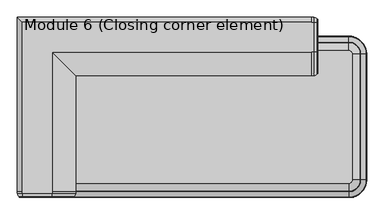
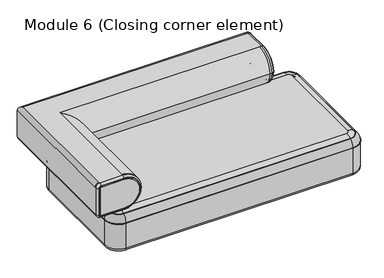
"""IFC4 building model written with IfcOpenShell, lengths in millimetres: furniture geometry, Module 6 (Closing corner element) : 1800х930х710мм."""

from ifc_helpers import new_model, si_unit, point, frame, origin, place, context, project, spatial, polyline, circle_curve, ellipse_curve, trimmed, source, transform, mapped, element, save
from ifc_brep_helpers import plane_surface, cylinder_surface, revolved_surface, advanced_brep


def module_6_closing_corner_element_1f972c7f(model_context):
    return source(origin(), model_context, "Body", "AdvancedBrep", [
        advanced_brep(
        [(1450.0, -180.0, 680.0), (1450.0, -280.0, 580.0), (1450.0, -180.0, 480.0), (1450.0, -25.0, 480.0), (1450.0, -20.0, 485.0), (1450.0, -20.0, 675.0), (1450.0, -25.0000008, 680.0), (1448.319335, -180.0, 688.0250834), (1448.319335, -288.0250834, 580.0), (1430.0, -300.0, 580.0), (1430.0, -180.0, 700.0), (1420.0, -180.0, 700.0), (1420.0, -300.0, 580.0), (1448.319335, -180.0, 471.9749166), (1420.0, -180.0, 460.0), (1430.0, -180.0, 460.0), (1448.319335, -25.0, 471.9749166), (80.0, -180.0, 460.0), (80.0, -900.0, 460.0), (80.0, -910.0, 460.0), (-75.0, -910.0, 460.0), (-75.0, -900.0, 460.0), (-75.0, -25.0, 460.0), (1420.0, -25.0, 460.0), (1430.0, -25.0, 460.0), (1448.319335, -11.9749166, 485.0), (1420.0, 0.0, 485.0), (1430.0, 0.0, 485.0), (1448.319335, -11.9749166, 675.0), (-100.0, 0.0, 485.0), (-100.0, 0.0, 675.0), (1420.0, 0.0, 675.0), (1430.0, 0.0, 675.0), (1448.319335, -25.0, 688.0250834), (1420.0, -25.0, 700.0), (1430.0, -25.0, 700.0), (-75.0, -25.0, 700.0), (-75.0, -900.0, 700.0), (-75.0, -910.0, 700.0), (80.0, -910.0, 700.0), (80.0, -900.0, 700.0), (80.0, -180.0, 700.0), (1447.9066419, -288.9079837, 580.0), (1447.9066419, -180.0, 688.9079837), (1447.9066419, -180.0, 471.0920163), (1447.9066419, -25.0, 471.0920163), (1447.9066419, -11.0920163, 485.0), (1447.9066419, -11.0920163, 675.0), (1447.9066419, -25.0, 688.9079837), (200.0, -300.0, 580.0), (-100.0, -900.0, 485.0), (-100.0, -910.0, 485.0), (-100.0, -910.0, 675.0), (-100.0, -900.0, 675.0), (200.0, -900.0, 580.0), (-75.0, -930.0, 680.0), (-80.0, -930.0, 675.0), (-80.0, -930.0, 485.0), (-75.0, -930.0, 480.0), (80.0, -930.0, 480.0), (180.0, -930.0, 580.0), (79.9999934, -930.0, 680.0), (-75.0, -928.2181361, 688.2522432), (-88.2522432, -928.2181361, 675.0), (-88.2522432, -928.2181361, 485.0), (-75.0, -928.2181361, 471.7477568), (80.0, -928.2181361, 471.7477568), (188.2522432, -928.2181361, 580.0), (200.0, -910.0, 580.0), (80.0, -928.2181361, 688.2522432), (-88.9180637, -927.9016239, 675.0), (-75.0, -927.9016239, 688.9180637), (-88.9180637, -927.9016239, 485.0), (-75.0, -927.9016239, 471.0819363), (80.0, -927.9016239, 471.0819363), (188.9180637, -927.9016239, 580.0), (80.0, -927.9016239, 688.9180637)],
        [
            (0, 1, circle_curve(frame((1450.0, -180.0, 580.0), z_axis=(1.0, 0.0, 0.0), x_axis=(0.0, 0.0, 1.0)), 100.0)),
            (1, 2, circle_curve(frame((1450.0, -180.0, 580.0), z_axis=(1.0, 0.0, 0.0), x_axis=(0.0, -1.0, 0.0)), 100.0)),
            (2, 3),
            (3, 4, circle_curve(frame((1450.0, -25.0, 485.0), z_axis=(1.0, 0.0, 0.0), x_axis=(0.0, 0.0, -1.0)), 5.0)),
            (4, 5),
            (5, 6, circle_curve(frame((1450.0, -25.0, 675.0), z_axis=(1.0, 0.0, 0.0), x_axis=(0.0, 1.0, 0.0)), 5.0)),
            (6, 0),
            (0, 7, circle_curve(frame((1430.0, -180.0, 680.0), z_axis=(0.0, -1.0, 0.0), x_axis=(0.0, 0.0, -1.0)), 20.0)),
            (7, 8, circle_curve(frame((1448.319335, -180.0, 580.0), z_axis=(1.0, 0.0, 0.0), x_axis=(0.0, 0.0, 1.0)), 108.0250834)),
            (8, 1, circle_curve(frame((1430.0, -280.0, 580.0), z_axis=(0.0, 0.0, 1.0), x_axis=(0.0, 1.0, 0.0)), 20.0)),
            (9, 10, circle_curve(frame((1430.0, -180.0, 580.0), z_axis=(-1.0, 0.0, 0.0), x_axis=(0.0, 0.0, 1.0)), 120.0)),
            (10, 11),
            (11, 12, circle_curve(frame((1420.0, -180.0, 580.0), z_axis=(1.0, 0.0, 0.0), x_axis=(0.0, 0.0, 1.0)), 120.0)),
            (12, 9),
            (8, 13, circle_curve(frame((1448.319335, -180.0, 580.0), z_axis=(1.0, 0.0, 0.0), x_axis=(0.0, -1.0, 0.0)), 108.0250834)),
            (13, 2, circle_curve(frame((1430.0, -180.0, 480.0), z_axis=(0.0, -1.0, 0.0), x_axis=(0.0, 0.0, 1.0)), 20.0)),
            (12, 14, circle_curve(frame((1420.0, -180.0, 580.0), z_axis=(1.0, 0.0, 0.0), x_axis=(0.0, -1.0, 0.0)), 120.0)),
            (14, 15),
            (15, 9, circle_curve(frame((1430.0, -180.0, 580.0), z_axis=(-1.0, 0.0, 0.0), x_axis=(0.0, -1.0, 0.0)), 120.0)),
            (13, 16),
            (16, 3, circle_curve(frame((1430.0, -25.0, 480.0), z_axis=(0.0, -1.0, 0.0), x_axis=(0.0, 0.0, 1.0)), 20.0)),
            (14, 17),
            (17, 18),
            (18, 19),
            (19, 20),
            (20, 21),
            (21, 22),
            (22, 23),
            (23, 24),
            (24, 15),
            (16, 25, circle_curve(frame((1448.319335, -25.0, 485.0), z_axis=(1.0, 0.0, 0.0), x_axis=(0.0, 0.0, -1.0)), 13.0250834)),
            (25, 4, circle_curve(frame((1430.0, -20.0, 485.0), z_axis=(0.0, 0.0, -1.0), x_axis=(0.0, -1.0, 0.0)), 20.0)),
            (23, 26, circle_curve(frame((1420.0, -25.0, 485.0), z_axis=(1.0, 0.0, 0.0), x_axis=(0.0, 0.0, -1.0)), 25.0)),
            (26, 27),
            (27, 24, circle_curve(frame((1430.0, -25.0, 485.0), z_axis=(-1.0, 0.0, 0.0), x_axis=(0.0, 0.0, -1.0)), 25.0)),
            (25, 28),
            (28, 5, circle_curve(frame((1430.0, -20.0, 675.0), z_axis=(0.0, 0.0, -1.0), x_axis=(0.0, -1.0, 0.0)), 20.0)),
            (26, 29),
            (29, 30),
            (30, 31),
            (31, 32),
            (32, 27),
            (28, 33, circle_curve(frame((1448.319335, -25.0, 675.0), z_axis=(1.0, 0.0, 0.0), x_axis=(0.0, 1.0, 0.0)), 13.0250834)),
            (33, 6, circle_curve(frame((1430.0, -25.0, 680.0), z_axis=(0.0, 1.0, 0.0), x_axis=(0.0, 0.0, -1.0)), 20.0)),
            (31, 34, circle_curve(frame((1420.0, -25.0, 675.0), z_axis=(1.0, 0.0, 0.0), x_axis=(0.0, 1.0, 0.0)), 25.0)),
            (34, 35),
            (35, 32, circle_curve(frame((1430.0, -25.0, 675.0), z_axis=(-1.0, 0.0, 0.0), x_axis=(0.0, 1.0, 0.0)), 25.0)),
            (33, 7),
            (10, 35),
            (34, 36),
            (36, 37),
            (37, 38),
            (38, 39),
            (39, 40),
            (40, 41),
            (41, 11),
            (9, 42, circle_curve(frame((1430.0, -280.0, 580.0), z_axis=(0.0, 0.0, 1.0), x_axis=(0.0, 1.0, 0.0)), 20.0)),
            (42, 43, circle_curve(frame((1447.9066419, -180.0, 580.0), z_axis=(-1.0, 0.0, 0.0), x_axis=(0.0, 0.0, 1.0)), 108.9079837)),
            (43, 10, circle_curve(frame((1430.0, -180.0, 680.0), z_axis=(0.0, -1.0, 0.0), x_axis=(0.0, 0.0, -1.0)), 20.0)),
            (7, 43, circle_curve(frame((1448.6877598, -180.0, 688.7351983), z_axis=(0.0, -1.0, 0.0), x_axis=(0.0, 0.0, -1.0)), 0.8)),
            (42, 8, circle_curve(frame((1448.6877598, -288.7351983, 580.0), z_axis=(0.0, 0.0, 1.0), x_axis=(0.0, 1.0, 0.0)), 0.8)),
            (15, 44, circle_curve(frame((1430.0, -180.0, 480.0), z_axis=(0.0, -1.0, 0.0), x_axis=(0.0, 0.0, 1.0)), 20.0)),
            (44, 42, circle_curve(frame((1447.9066419, -180.0, 580.0), z_axis=(-1.0, 0.0, 0.0), x_axis=(0.0, -1.0, 0.0)), 108.9079837)),
            (44, 13, circle_curve(frame((1448.6877598, -180.0, 471.2648017), z_axis=(0.0, -1.0, 0.0), x_axis=(0.0, 0.0, 1.0)), 0.8)),
            (24, 45, circle_curve(frame((1430.0, -25.0, 480.0), z_axis=(0.0, -1.0, 0.0), x_axis=(0.0, 0.0, 1.0)), 20.0)),
            (45, 44),
            (45, 16, circle_curve(frame((1448.6877598, -25.0, 471.2648017), z_axis=(0.0, -1.0, 0.0), x_axis=(0.0, 0.0, 1.0)), 0.8)),
            (27, 46, circle_curve(frame((1430.0, -20.0, 485.0), z_axis=(0.0, 0.0, -1.0), x_axis=(0.0, -1.0, 0.0)), 20.0)),
            (46, 45, circle_curve(frame((1447.9066419, -25.0, 485.0), z_axis=(-1.0, 0.0, 0.0), x_axis=(0.0, 0.0, -1.0)), 13.9079837)),
            (46, 25, circle_curve(frame((1448.6877598, -11.2648017, 485.0), z_axis=(0.0, 0.0, -1.0), x_axis=(0.0, -1.0, 0.0)), 0.8)),
            (32, 47, circle_curve(frame((1430.0, -20.0, 675.0), z_axis=(0.0, 0.0, -1.0), x_axis=(0.0, -1.0, 0.0)), 20.0)),
            (47, 46),
            (47, 28, circle_curve(frame((1448.6877598, -11.2648017, 675.0), z_axis=(0.0, 0.0, -1.0), x_axis=(0.0, -1.0, 0.0)), 0.8)),
            (35, 48, circle_curve(frame((1430.0, -25.0, 680.0), z_axis=(0.0, 1.0, 0.0), x_axis=(0.0, 0.0, -1.0)), 20.0)),
            (48, 47, circle_curve(frame((1447.9066419, -25.0, 675.0), z_axis=(-1.0, 0.0, 0.0), x_axis=(0.0, 1.0, 0.0)), 13.9079837)),
            (48, 33, circle_curve(frame((1448.6877598, -25.0, 688.7351983), z_axis=(0.0, 1.0, 0.0), x_axis=(0.0, 0.0, -1.0)), 0.8)),
            (43, 48),
            (30, 36, ellipse_curve(frame((-75.0, -25.0, 675.0), z_axis=(0.7071067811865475, 0.7071067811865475, 0.0), x_axis=(0.7071067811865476, -0.7071067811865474, 0.0)), 35.3553391, 25.0)),
            (41, 49, ellipse_curve(frame((80.0, -180.0, 580.0), z_axis=(0.7071067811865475, 0.7071067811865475, 0.0), x_axis=(0.7071067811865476, -0.7071067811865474, 0.0)), 169.7056275, 120.0)),
            (49, 12),
            (49, 17, ellipse_curve(frame((80.0, -180.0, 580.0), z_axis=(0.7071067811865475, 0.7071067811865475, 0.0), x_axis=(0.7071067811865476, -0.7071067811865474, 0.0)), 169.7056275, 120.0)),
            (22, 29, ellipse_curve(frame((-75.0, -25.0, 485.0), z_axis=(0.7071067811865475, 0.7071067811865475, 0.0), x_axis=(0.7071067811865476, -0.7071067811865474, 0.0)), 35.3553391, 25.0)),
            (29, 50),
            (50, 51),
            (51, 52),
            (52, 53),
            (53, 30),
            (53, 37, circle_curve(frame((-75.0, -900.0, 675.0), z_axis=(0.0, 1.0, 0.0), x_axis=(1.0, 0.0, 0.0)), 25.0)),
            (40, 54, circle_curve(frame((80.0, -900.0, 580.0), z_axis=(0.0, 1.0, 0.0), x_axis=(1.0, 0.0, 0.0)), 120.0)),
            (54, 49),
            (54, 18, circle_curve(frame((80.0, -900.0, 580.0), z_axis=(0.0, 1.0, 0.0), x_axis=(1.0, 0.0, 0.0)), 120.0)),
            (21, 50, circle_curve(frame((-75.0, -900.0, 485.0), z_axis=(0.0, 1.0, 0.0), x_axis=(1.0, 0.0, 0.0)), 25.0)),
            (55, 56, circle_curve(frame((-75.0, -930.0, 675.0), z_axis=(0.0, -1.0, 0.0), x_axis=(0.0, 0.0, 1.0)), 5.0)),
            (56, 57),
            (57, 58, circle_curve(frame((-75.0, -930.0, 485.0), z_axis=(0.0, -1.0, 0.0), x_axis=(-1.0, 0.0, 0.0)), 5.0)),
            (58, 59),
            (59, 60, circle_curve(frame((80.0, -930.0, 580.0), z_axis=(0.0, -1.0, 0.0), x_axis=(0.0, 0.0, -1.0)), 100.0)),
            (60, 61, circle_curve(frame((80.0, -930.0, 580.0), z_axis=(0.0, -1.0, 0.0), x_axis=(1.0, 0.0, 0.0)), 100.0)),
            (61, 55),
            (55, 62, circle_curve(frame((-75.0, -910.0, 680.0), z_axis=(-1.0, 0.0, 0.0), x_axis=(0.0, 0.0, -1.0)), 20.0)),
            (62, 63, circle_curve(frame((-75.0, -928.2181361, 675.0), z_axis=(0.0, -1.0, 0.0), x_axis=(0.0, 0.0, 1.0)), 13.2522432)),
            (63, 56, circle_curve(frame((-80.0, -910.0, 675.0), z_axis=(0.0, 0.0, 1.0), x_axis=(1.0, 0.0, 0.0)), 20.0)),
            (52, 38, circle_curve(frame((-75.0, -910.0, 675.0), z_axis=(0.0, 1.0, 0.0), x_axis=(0.0, 0.0, 1.0)), 25.0)),
            (63, 64),
            (64, 57, circle_curve(frame((-80.0, -910.0, 485.0), z_axis=(0.0, 0.0, 1.0), x_axis=(1.0, 0.0, 0.0)), 20.0)),
            (64, 65, circle_curve(frame((-75.0, -928.2181361, 485.0), z_axis=(0.0, -1.0, 0.0), x_axis=(-1.0, 0.0, 0.0)), 13.2522432)),
            (65, 58, circle_curve(frame((-75.0, -910.0, 480.0), z_axis=(-1.0, 0.0, 0.0), x_axis=(0.0, 0.0, 1.0)), 20.0)),
            (20, 51, circle_curve(frame((-75.0, -910.0, 485.0), z_axis=(0.0, 1.0, 0.0), x_axis=(-1.0, 0.0, 0.0)), 25.0)),
            (65, 66),
            (66, 59, circle_curve(frame((80.0, -910.0, 480.0), z_axis=(-1.0, 0.0, 0.0), x_axis=(0.0, 0.0, 1.0)), 20.0)),
            (66, 67, circle_curve(frame((80.0, -928.2181361, 580.0), z_axis=(0.0, -1.0, 0.0), x_axis=(0.0, 0.0, -1.0)), 108.2522432)),
            (67, 60, circle_curve(frame((180.0, -910.0, 580.0), z_axis=(0.0, 0.0, -1.0), x_axis=(-1.0, 0.0, 0.0)), 20.0)),
            (54, 68),
            (68, 19, circle_curve(frame((80.0, -910.0, 580.0), z_axis=(0.0, 1.0, 0.0), x_axis=(0.0, 0.0, -1.0)), 120.0)),
            (67, 69, circle_curve(frame((80.0, -928.2181361, 580.0), z_axis=(0.0, -1.0, 0.0), x_axis=(1.0, 0.0, 0.0)), 108.2522432)),
            (69, 61, circle_curve(frame((80.0, -910.0, 680.0), z_axis=(1.0, 0.0, 0.0), x_axis=(0.0, 0.0, -1.0)), 20.0)),
            (39, 68, circle_curve(frame((80.0, -910.0, 580.0), z_axis=(0.0, 1.0, 0.0), x_axis=(1.0, 0.0, 0.0)), 120.0)),
            (69, 62),
            (52, 70, circle_curve(frame((-80.0, -910.0, 675.0), z_axis=(0.0, 0.0, 1.0), x_axis=(1.0, 0.0, 0.0)), 20.0)),
            (70, 71, circle_curve(frame((-75.0, -927.9016239, 675.0), z_axis=(0.0, 1.0, 0.0), x_axis=(0.0, 0.0, 1.0)), 13.9180637)),
            (71, 38, circle_curve(frame((-75.0, -910.0, 680.0), z_axis=(-1.0, 0.0, 0.0), x_axis=(0.0, 0.0, -1.0)), 20.0)),
            (62, 71, circle_curve(frame((-75.0, -928.7389915, 688.9079837), z_axis=(-1.0, 0.0, 0.0), x_axis=(0.0, 0.0, -1.0)), 0.8374282)),
            (70, 63, circle_curve(frame((-88.9079837, -928.7389915, 675.0), z_axis=(0.0, 0.0, 1.0), x_axis=(1.0, 0.0, 0.0)), 0.8374282)),
            (51, 72, circle_curve(frame((-80.0, -910.0, 485.0), z_axis=(0.0, 0.0, 1.0), x_axis=(1.0, 0.0, 0.0)), 20.0)),
            (72, 70),
            (72, 64, circle_curve(frame((-88.9079837, -928.7389915, 485.0), z_axis=(0.0, 0.0, 1.0), x_axis=(1.0, 0.0, 0.0)), 0.8374282)),
            (20, 73, circle_curve(frame((-75.0, -910.0, 480.0), z_axis=(-1.0, 0.0, 0.0), x_axis=(0.0, 0.0, 1.0)), 20.0)),
            (73, 72, circle_curve(frame((-75.0, -927.9016239, 485.0), z_axis=(0.0, 1.0, 0.0), x_axis=(-1.0, 0.0, 0.0)), 13.9180637)),
            (73, 65, circle_curve(frame((-75.0, -928.7389915, 471.0920163), z_axis=(-1.0, 0.0, 0.0), x_axis=(0.0, 0.0, 1.0)), 0.8374282)),
            (19, 74, circle_curve(frame((80.0, -910.0, 480.0), z_axis=(-1.0, 0.0, 0.0), x_axis=(0.0, 0.0, 1.0)), 20.0)),
            (74, 73),
            (74, 66, circle_curve(frame((80.0, -928.7389915, 471.0920163), z_axis=(-1.0, 0.0, 0.0), x_axis=(0.0, 0.0, 1.0)), 0.8374282)),
            (68, 75, circle_curve(frame((180.0, -910.0, 580.0), z_axis=(0.0, 0.0, -1.0), x_axis=(-1.0, 0.0, 0.0)), 20.0)),
            (75, 74, circle_curve(frame((80.0, -927.9016239, 580.0), z_axis=(0.0, 1.0, 0.0), x_axis=(0.0, 0.0, -1.0)), 108.9180637)),
            (75, 67, circle_curve(frame((188.9079837, -928.7389915, 580.0), z_axis=(0.0, 0.0, -1.0), x_axis=(-1.0, 0.0, 0.0)), 0.8374282)),
            (39, 76, circle_curve(frame((80.0, -910.0, 680.0), z_axis=(1.0, 0.0, 0.0), x_axis=(0.0, 0.0, -1.0)), 20.0)),
            (76, 75, circle_curve(frame((80.0, -927.9016239, 580.0), z_axis=(0.0, 1.0, 0.0), x_axis=(1.0, 0.0, 0.0)), 108.9180637)),
            (76, 69, circle_curve(frame((80.0, -928.7389915, 688.9079837), z_axis=(1.0, 0.0, 0.0), x_axis=(0.0, 0.0, -1.0)), 0.8374282)),
            (71, 76),
        ],
        [
            plane_surface(frame((1450.0, -150.0, 680.0), z_axis=(1.0, 0.0, 0.0), x_axis=(0.0, -1.0, 0.0))),
            revolved_surface(trimmed(ellipse_curve(frame((1430.0, -180.0, 680.0), z_axis=(0.0, 1.0, 0.0), x_axis=(0.0, 0.0, -1.0)), 20.0, 20.0), [point((1448.319335, -180.0, 688.0250834))], [point((1450.0, -180.0, 680.0))], True, "CARTESIAN"), (1420.0, -180.0, 580.0), (1.0, 0.0, 0.0)),
            cylinder_surface(frame((1420.0, -180.0, 580.0), z_axis=(1.0, 0.0, 0.0), x_axis=(0.0, 0.0, 1.0)), 120.0),
            revolved_surface(trimmed(ellipse_curve(frame((1430.0, -280.0, 580.0), z_axis=(0.0, 0.0, 1.0), x_axis=(0.0, 1.0, 0.0)), 20.0, 20.0), [point((1448.319335, -288.0250834, 580.0))], [point((1450.0, -280.0, 580.0))], True, "CARTESIAN"), (1420.0, -180.0, 580.0), (1.0, 0.0, 0.0)),
            cylinder_surface(frame((1420.0, -180.0, 580.0), z_axis=(1.0, 0.0, 0.0), x_axis=(0.0, -1.0, 0.0)), 120.0),
            cylinder_surface(frame((1430.0, -180.0, 480.0), z_axis=(0.0, -1.0, 0.0), x_axis=(0.0, 0.0, 1.0)), 20.0),
            plane_surface(frame((1420.0, -180.0, 460.0), z_axis=(0.0, 0.0, -1.0), x_axis=(0.0, 1.0, 0.0))),
            revolved_surface(trimmed(ellipse_curve(frame((1430.0, -25.0, 480.0), z_axis=(0.0, -1.0, 0.0), x_axis=(0.0, 0.0, 1.0)), 20.0, 20.0), [point((1448.319335, -25.0, 471.9749166))], [point((1450.0, -25.0, 480.0))], True, "CARTESIAN"), (1420.0, -25.0, 485.0), (1.0, 0.0, 0.0)),
            cylinder_surface(frame((1420.0, -25.0, 485.0), z_axis=(1.0, 0.0, 0.0), x_axis=(0.0, 0.0, -1.0)), 25.0),
            cylinder_surface(frame((1430.0, -20.0, 485.0), z_axis=(0.0, 0.0, -1.0), x_axis=(0.0, -1.0, 0.0)), 20.0),
            plane_surface(frame((1420.0, 0.0, 485.0), z_axis=(0.0, 1.0, 0.0), x_axis=(0.0, 0.0, 1.0))),
            revolved_surface(trimmed(ellipse_curve(frame((1430.0, -20.0, 675.0), z_axis=(0.0, 0.0, -1.0), x_axis=(0.0, -1.0, 0.0)), 20.0, 20.0), [point((1448.319335, -11.9749166, 675.0))], [point((1450.0, -20.0, 675.0))], True, "CARTESIAN"), (1420.0, -25.0, 675.0), (1.0, 0.0, 0.0)),
            cylinder_surface(frame((1420.0, -25.0, 675.0), z_axis=(1.0, 0.0, 0.0), x_axis=(0.0, 1.0, 0.0)), 25.0),
            cylinder_surface(frame((1430.0, -25.0, 680.0), z_axis=(0.0, 1.0, 0.0), x_axis=(0.0, 0.0, -1.0)), 20.0),
            plane_surface(frame((1420.0, -25.0, 700.0), z_axis=(0.0, 0.0, 1.0), x_axis=(0.0, -1.0, 0.0))),
            revolved_surface(trimmed(ellipse_curve(frame((1430.0, -180.0, 680.0), z_axis=(0.0, 1.0, 0.0), x_axis=(0.0, 0.0, -1.0)), 20.0, 20.0), [point((1430.0, -180.0, 700.0))], [point((1447.9066419, -180.0, 688.9079837))], True, "CARTESIAN"), (1420.0, -180.0, 580.0), (1.0, 0.0, 0.0)),
            revolved_surface(trimmed(ellipse_curve(frame((1448.6877598, -180.0, 688.7351983), z_axis=(0.0, 1.0, 0.0), x_axis=(0.0, 0.0, -1.0)), 0.8, 0.8), [point((1447.9066419, -180.0, 688.9079837))], [point((1448.319335, -180.0, 688.0250834))], True, "CARTESIAN"), (1420.0, -180.0, 580.0), (1.0, 0.0, 0.0)),
            revolved_surface(trimmed(ellipse_curve(frame((1430.0, -280.0, 580.0), z_axis=(0.0, 0.0, 1.0), x_axis=(0.0, 1.0, 0.0)), 20.0, 20.0), [point((1430.0, -300.0, 580.0))], [point((1447.9066419, -288.9079837, 580.0))], True, "CARTESIAN"), (1420.0, -180.0, 580.0), (1.0, 0.0, 0.0)),
            revolved_surface(trimmed(ellipse_curve(frame((1448.6877598, -288.7351983, 580.0), z_axis=(0.0, 0.0, 1.0), x_axis=(0.0, 1.0, 0.0)), 0.8, 0.8), [point((1447.9066419, -288.9079837, 580.0))], [point((1448.319335, -288.0250834, 580.0))], True, "CARTESIAN"), (1420.0, -180.0, 580.0), (1.0, 0.0, 0.0)),
            cylinder_surface(frame((1448.6877598, -180.0, 471.2648017), z_axis=(0.0, -1.0, 0.0), x_axis=(0.0, 0.0, 1.0)), 0.8),
            revolved_surface(trimmed(ellipse_curve(frame((1430.0, -25.0, 480.0), z_axis=(0.0, -1.0, 0.0), x_axis=(0.0, 0.0, 1.0)), 20.0, 20.0), [point((1430.0, -25.0, 460.0))], [point((1447.9066419, -25.0, 471.0920163))], True, "CARTESIAN"), (1420.0, -25.0, 485.0), (1.0, 0.0, 0.0)),
            revolved_surface(trimmed(ellipse_curve(frame((1448.6877598, -25.0, 471.2648017), z_axis=(0.0, -1.0, 0.0), x_axis=(0.0, 0.0, 1.0)), 0.8, 0.8), [point((1447.9066419, -25.0, 471.0920163))], [point((1448.319335, -25.0, 471.9749166))], True, "CARTESIAN"), (1420.0, -25.0, 485.0), (1.0, 0.0, 0.0)),
            cylinder_surface(frame((1448.6877598, -11.2648017, 485.0), z_axis=(0.0, 0.0, -1.0), x_axis=(0.0, -1.0, 0.0)), 0.8),
            revolved_surface(trimmed(ellipse_curve(frame((1430.0, -20.0, 675.0), z_axis=(0.0, 0.0, -1.0), x_axis=(0.0, -1.0, 0.0)), 20.0, 20.0), [point((1430.0, 0.0, 675.0))], [point((1447.9066419, -11.0920163, 675.0))], True, "CARTESIAN"), (1420.0, -25.0, 675.0), (1.0, 0.0, 0.0)),
            revolved_surface(trimmed(ellipse_curve(frame((1448.6877598, -11.2648017, 675.0), z_axis=(0.0, 0.0, -1.0), x_axis=(0.0, -1.0, 0.0)), 0.8, 0.8), [point((1447.9066419, -11.0920163, 675.0))], [point((1448.319335, -11.9749166, 675.0))], True, "CARTESIAN"), (1420.0, -25.0, 675.0), (1.0, 0.0, 0.0)),
            cylinder_surface(frame((1448.6877598, -25.0, 688.7351983), z_axis=(0.0, 1.0, 0.0), x_axis=(0.0, 0.0, -1.0)), 0.8),
            cylinder_surface(frame((1420.0, -25.0, 675.0), z_axis=(1.0, 0.0, 0.0), x_axis=(0.0, -1.0, 0.0)), 25.0),
            cylinder_surface(frame((1420.0, -25.0, 485.0), z_axis=(1.0, 0.0, 0.0), x_axis=(0.0, -1.0, 0.0)), 25.0),
            plane_surface(frame((-100.0, 0.0, 485.0), z_axis=(-1.0, 0.0, 0.0), x_axis=(0.0, -1.0, 0.0))),
            cylinder_surface(frame((-75.0, 0.0, 675.0), z_axis=(0.0, 1.0, 0.0), x_axis=(1.0, 0.0, 0.0)), 25.0),
            cylinder_surface(frame((80.0, 0.0, 580.0), z_axis=(0.0, 1.0, 0.0), x_axis=(1.0, 0.0, 0.0)), 120.0),
            cylinder_surface(frame((-75.0, 0.0, 485.0), z_axis=(0.0, 1.0, 0.0), x_axis=(1.0, 0.0, 0.0)), 25.0),
            plane_surface(frame((80.0, -930.0, 680.0), z_axis=(0.0, -1.0, 0.0), x_axis=(-1.0, 0.0, 0.0))),
            revolved_surface(trimmed(ellipse_curve(frame((-75.0, -910.0, 680.0), z_axis=(1.0, 0.0, 0.0), x_axis=(0.0, 0.0, -1.0)), 20.0, 20.0), [point((-75.0, -928.2181361, 688.2522432))], [point((-75.0, -930.0, 680.0))], True, "CARTESIAN"), (-75.0, -900.0, 675.0), (0.0, -1.0, 0.0)),
            cylinder_surface(frame((-75.0, -900.0, 675.0), z_axis=(0.0, -1.0, 0.0), x_axis=(0.0, 0.0, 1.0)), 25.0),
            cylinder_surface(frame((-80.0, -910.0, 675.0), z_axis=(0.0, 0.0, 1.0), x_axis=(1.0, 0.0, 0.0)), 20.0),
            revolved_surface(trimmed(ellipse_curve(frame((-80.0, -910.0, 485.0), z_axis=(0.0, 0.0, 1.0), x_axis=(1.0, 0.0, 0.0)), 20.0, 20.0), [point((-88.2522432, -928.2181361, 485.0))], [point((-80.0, -930.0, 485.0))], True, "CARTESIAN"), (-75.0, -900.0, 485.0), (0.0, -1.0, 0.0)),
            cylinder_surface(frame((-75.0, -900.0, 485.0), z_axis=(0.0, -1.0, 0.0), x_axis=(-1.0, 0.0, 0.0)), 25.0),
            cylinder_surface(frame((-75.0, -910.0, 480.0), z_axis=(-1.0, 0.0, 0.0), x_axis=(0.0, 0.0, 1.0)), 20.0),
            revolved_surface(trimmed(ellipse_curve(frame((80.0, -910.0, 480.0), z_axis=(-1.0, 0.0, 0.0), x_axis=(0.0, 0.0, 1.0)), 20.0, 20.0), [point((80.0, -928.2181361, 471.7477568))], [point((80.0, -930.0, 480.0))], True, "CARTESIAN"), (80.0, -900.0, 580.0), (0.0, -1.0, 0.0)),
            cylinder_surface(frame((80.0, -900.0, 580.0), z_axis=(0.0, -1.0, 0.0), x_axis=(0.0, 0.0, -1.0)), 120.0),
            revolved_surface(trimmed(ellipse_curve(frame((180.0, -910.0, 580.0), z_axis=(0.0, 0.0, -1.0), x_axis=(-1.0, 0.0, 0.0)), 20.0, 20.0), [point((188.2522432, -928.2181361, 580.0))], [point((180.0, -930.0, 580.0))], True, "CARTESIAN"), (80.0, -900.0, 580.0), (0.0, -1.0, 0.0)),
            cylinder_surface(frame((80.0, -900.0, 580.0), z_axis=(0.0, -1.0, 0.0), x_axis=(1.0, 0.0, 0.0)), 120.0),
            cylinder_surface(frame((80.0, -910.0, 680.0), z_axis=(1.0, 0.0, 0.0), x_axis=(0.0, 0.0, -1.0)), 20.0),
            revolved_surface(trimmed(ellipse_curve(frame((-75.0, -910.0, 680.0), z_axis=(1.0, 0.0, 0.0), x_axis=(0.0, 0.0, -1.0)), 20.0, 20.0), [point((-75.0, -910.0, 700.0))], [point((-75.0, -927.9016239, 688.9180637))], True, "CARTESIAN"), (-75.0, -900.0, 675.0), (0.0, -1.0, 0.0)),
            revolved_surface(trimmed(ellipse_curve(frame((-75.0, -928.7389915, 688.9079837), z_axis=(1.0, 0.0, 0.0), x_axis=(0.0, 0.0, -1.0)), 0.8374282, 0.8374282), [point((-75.0, -927.9016239, 688.9180637))], [point((-75.0, -928.2181361, 688.2522432))], True, "CARTESIAN"), (-75.0, -900.0, 675.0), (0.0, -1.0, 0.0)),
            cylinder_surface(frame((-88.9079837, -928.7389915, 675.0), z_axis=(0.0, 0.0, 1.0), x_axis=(1.0, 0.0, 0.0)), 0.8374282),
            revolved_surface(trimmed(ellipse_curve(frame((-80.0, -910.0, 485.0), z_axis=(0.0, 0.0, 1.0), x_axis=(1.0, 0.0, 0.0)), 20.0, 20.0), [point((-100.0, -910.0, 485.0))], [point((-88.9180637, -927.9016239, 485.0))], True, "CARTESIAN"), (-75.0, -900.0, 485.0), (0.0, -1.0, 0.0)),
            revolved_surface(trimmed(ellipse_curve(frame((-88.9079837, -928.7389915, 485.0), z_axis=(0.0, 0.0, 1.0), x_axis=(1.0, 0.0, 0.0)), 0.8374282, 0.8374282), [point((-88.9180637, -927.9016239, 485.0))], [point((-88.2522432, -928.2181361, 485.0))], True, "CARTESIAN"), (-75.0, -900.0, 485.0), (0.0, -1.0, 0.0)),
            cylinder_surface(frame((-75.0, -928.7389915, 471.0920163), z_axis=(-1.0, 0.0, 0.0), x_axis=(0.0, 0.0, 1.0)), 0.8374282),
            revolved_surface(trimmed(ellipse_curve(frame((80.0, -910.0, 480.0), z_axis=(-1.0, 0.0, 0.0), x_axis=(0.0, 0.0, 1.0)), 20.0, 20.0), [point((80.0, -910.0, 460.0))], [point((80.0, -927.9016239, 471.0819363))], True, "CARTESIAN"), (80.0, -900.0, 580.0), (0.0, -1.0, 0.0)),
            revolved_surface(trimmed(ellipse_curve(frame((80.0, -928.7389915, 471.0920163), z_axis=(-1.0, 0.0, 0.0), x_axis=(0.0, 0.0, 1.0)), 0.8374282, 0.8374282), [point((80.0, -927.9016239, 471.0819363))], [point((80.0, -928.2181361, 471.7477568))], True, "CARTESIAN"), (80.0, -900.0, 580.0), (0.0, -1.0, 0.0)),
            revolved_surface(trimmed(ellipse_curve(frame((180.0, -910.0, 580.0), z_axis=(0.0, 0.0, -1.0), x_axis=(-1.0, 0.0, 0.0)), 20.0, 20.0), [point((200.0, -910.0, 580.0))], [point((188.9180637, -927.9016239, 580.0))], True, "CARTESIAN"), (80.0, -900.0, 580.0), (0.0, -1.0, 0.0)),
            revolved_surface(trimmed(ellipse_curve(frame((188.9079837, -928.7389915, 580.0), z_axis=(0.0, 0.0, -1.0), x_axis=(-1.0, 0.0, 0.0)), 0.8374282, 0.8374282), [point((188.9180637, -927.9016239, 580.0))], [point((188.2522432, -928.2181361, 580.0))], True, "CARTESIAN"), (80.0, -900.0, 580.0), (0.0, -1.0, 0.0)),
            cylinder_surface(frame((80.0, -928.7389915, 688.9079837), z_axis=(1.0, 0.0, 0.0), x_axis=(0.0, 0.0, -1.0)), 0.8374282),
        ],
        [
            (0, [[1, 2, 3, 4, 5, 6, 7]]),
            (1, [[8, 9, 10, -1]]),
            (2, [[11, 12, 13, 14]]),
            (3, [[-10, 15, 16, -2]]),
            (4, [[-14, 17, 18, 19]]),
            (5, [[-16, 20, 21, -3]]),
            (6, [[-18, 22, 23, 24, 25, 26, 27, 28, 29, 30]]),
            (7, [[-21, 31, 32, -4]]),
            (8, [[-29, 33, 34, 35]]),
            (9, [[-32, 36, 37, -5]]),
            (10, [[-34, 38, 39, 40, 41, 42]]),
            (11, [[-37, 43, 44, -6]]),
            (12, [[-41, 45, 46, 47]]),
            (13, [[-8, -7, -44, 48]]),
            (14, [[-12, 49, -46, 50, 51, 52, 53, 54, 55, 56]]),
            (15, [[-11, 57, 58, 59]]),
            (16, [[-9, 60, -58, 61]]),
            (17, [[-19, 62, 63, -57]]),
            (18, [[-15, -61, -63, 64]]),
            (5, [[-30, 65, 66, -62]]),
            (19, [[-20, -64, -66, 67]]),
            (20, [[-35, 68, 69, -65]]),
            (21, [[-31, -67, -69, 70]]),
            (9, [[-42, 71, 72, -68]]),
            (22, [[-36, -70, -72, 73]]),
            (23, [[-47, 74, 75, -71]]),
            (24, [[-43, -73, -75, 76]]),
            (13, [[-49, -59, 77, -74]]),
            (25, [[-48, -76, -77, -60]]),
            (26, [[-40, 78, -50, -45]]),
            (4, [[-56, 79, 80, -13]]),
            (4, [[-80, 81, -22, -17]]),
            (27, [[-38, -33, -28, 82]]),
            (28, [[-39, 83, 84, 85, 86, 87]]),
            (29, [[-78, -87, 88, -51]]),
            (30, [[-55, 89, 90, -79]]),
            (30, [[-81, -90, 91, -23]]),
            (31, [[-27, 92, -83, -82]]),
            (32, [[93, 94, 95, 96, 97, 98, 99]]),
            (33, [[100, 101, 102, -93]]),
            (34, [[103, -52, -88, -86]]),
            (35, [[-102, 104, 105, -94]]),
            (36, [[-105, 106, 107, -95]]),
            (37, [[-84, -92, -26, 108]]),
            (38, [[-107, 109, 110, -96]]),
            (39, [[-110, 111, 112, -97]]),
            (40, [[-24, -91, 113, 114]]),
            (41, [[-112, 115, 116, -98]]),
            (42, [[-113, -89, -54, 117]]),
            (43, [[-100, -99, -116, 118]]),
            (44, [[-103, 119, 120, 121]]),
            (45, [[-101, 122, -120, 123]]),
            (35, [[-85, 124, 125, -119]]),
            (46, [[-104, -123, -125, 126]]),
            (47, [[-108, 127, 128, -124]]),
            (48, [[-106, -126, -128, 129]]),
            (38, [[-25, 130, 131, -127]]),
            (49, [[-109, -129, -131, 132]]),
            (50, [[-114, 133, 134, -130]]),
            (51, [[-111, -132, -134, 135]]),
            (52, [[-117, 136, 137, -133]]),
            (53, [[-115, -135, -137, 138]]),
            (43, [[-53, -121, 139, -136]]),
            (54, [[-118, -138, -139, -122]]),
        ],
    ),
        advanced_brep(
        [(90.0, -930.0, 190.0), (0.0, -840.0, 190.0), (20.0, -840.0, 170.0), (90.0, -910.0, 170.0), (90.0, -930.0, 369.0816596), (0.0, -840.0, 369.0816596), (90.0, -903.0932178, 417.1277728), (26.9067822, -840.0, 417.1277728), (0.0043962, -840.0, 370.2686252), (90.0, -929.9956038, 370.2686252), (90.0, -900.2270188, 418.8499589), (29.7729812, -840.0, 418.8499589), (90.0, -860.0212696, 430.0), (69.9787304, -840.0, 430.0), (1610.0, -910.0, 170.0), (1610.0, -930.0, 190.0), (1610.0, -930.0, 369.0816596), (1610.0, -929.9956038, 370.2686252), (1610.0, -903.0932178, 417.1277728), (1610.0, -900.2270188, 418.8499589), (1610.0, -860.0212696, 430.0), (1680.0, -840.0, 170.0), (1700.0, -840.0, 190.0), (1700.0, -840.0, 369.0816596), (1699.9956038, -840.0, 370.2686252), (1673.0932178, -840.0, 417.1277728), (1670.2270188, -840.0, 418.8499589), (1630.0212696, -840.0, 430.0), (1680.0, -190.0, 170.0), (1700.0, -190.0, 190.0), (1700.0, -190.0, 369.0816596), (1699.9956038, -190.0, 370.2686252), (1673.0932178, -190.0, 417.1277728), (1670.2270188, -190.0, 418.8499589), (1630.0212696, -190.0, 430.0), (1610.0, -120.0, 170.0), (1610.0, -100.0, 190.0), (1610.0, -100.0, 369.0816596), (1610.0, -100.0043962, 370.2686252), (1610.0, -126.9067822, 417.1277728), (1610.0, -129.7729812, 418.8499589), (1610.0, -169.9787304, 430.0), (90.0, -120.0, 170.0), (90.0, -100.0, 190.0), (90.0, -100.0, 369.0816596), (90.0, -100.0043962, 370.2686252), (90.0, -126.9067822, 417.1277728), (90.0, -129.7729812, 418.8499589), (90.0, -169.9787304, 430.0), (20.0, -190.0, 170.0), (0.0, -190.0, 190.0), (0.0, -190.0, 369.0816596), (0.0043962, -190.0, 370.2686252), (26.9067822, -190.0, 417.1277728), (29.7729812, -190.0, 418.8499589), (69.9787304, -190.0, 430.0)],
        [
            (0, 1, circle_curve(frame((90.0, -840.0, 190.0), z_axis=(0.0, 0.0, -1.0), x_axis=(-1.0, 0.0, 0.0)), 90.0)),
            (1, 2, circle_curve(frame((20.0, -840.0, 190.0), z_axis=(0.0, -1.0, 0.0), x_axis=(1.0, 0.0, 0.0)), 20.0)),
            (2, 3, circle_curve(frame((90.0, -840.0, 170.0), z_axis=(0.0, 0.0, 1.0), x_axis=(-1.0, 0.0, 0.0)), 70.0)),
            (3, 0, circle_curve(frame((90.0, -910.0, 190.0), z_axis=(-1.0, 0.0, 0.0), x_axis=(0.0, 1.0, 0.0)), 20.0)),
            (0, 4),
            (4, 5, circle_curve(frame((90.0, -840.0, 369.0816596), z_axis=(0.0, 0.0, -1.0), x_axis=(-1.0, 0.0, 0.0)), 90.0)),
            (5, 1),
            (6, 7, circle_curve(frame((90.0, -840.0, 417.1277728), z_axis=(0.0, 0.0, -1.0), x_axis=(-1.0, 0.0, 0.0)), 63.0932178)),
            (7, 8, circle_curve(frame((55.482257, -840.0, 369.5701963), z_axis=(0.0, -1.0, 0.0), x_axis=(1.0, 0.0, 0.0)), 55.482257)),
            (8, 9, circle_curve(frame((90.0, -840.0, 370.2686252), z_axis=(0.0, 0.0, 1.0), x_axis=(-1.0, 0.0, 0.0)), 89.9956038)),
            (9, 6, circle_curve(frame((90.0, -874.517743, 369.5701963), z_axis=(-1.0, 0.0, 0.0), x_axis=(0.0, 1.0, 0.0)), 55.482257)),
            (6, 10),
            (10, 11, circle_curve(frame((90.0, -840.0, 418.8499589), z_axis=(0.0, 0.0, -1.0), x_axis=(-1.0, 0.0, 0.0)), 60.2270188)),
            (11, 7),
            (10, 12, circle_curve(frame((90.0, -860.0212696, 351.9363554), z_axis=(-1.0, 0.0, 0.0), x_axis=(0.0, 1.0, 0.0)), 78.0636446)),
            (12, 13, circle_curve(frame((90.0, -840.0, 430.0), z_axis=(0.0, 0.0, -1.0), x_axis=(-1.0, 0.0, 0.0)), 20.0212696)),
            (13, 11, circle_curve(frame((69.9787304, -840.0, 351.9363554), z_axis=(0.0, -1.0, 0.0), x_axis=(1.0, 0.0, 0.0)), 78.0636446)),
            (3, 14),
            (14, 15, circle_curve(frame((1610.0, -910.0, 190.0), z_axis=(-1.0, 0.0, 0.0), x_axis=(0.0, 1.0, 0.0)), 20.0)),
            (15, 0),
            (15, 16),
            (16, 4),
            (9, 17),
            (17, 18, circle_curve(frame((1610.0, -874.517743, 369.5701963), z_axis=(-1.0, 0.0, 0.0), x_axis=(0.0, 1.0, 0.0)), 55.482257)),
            (18, 6),
            (18, 19),
            (19, 10),
            (19, 20, circle_curve(frame((1610.0, -860.0212696, 351.9363554), z_axis=(-1.0, 0.0, 0.0), x_axis=(0.0, 1.0, 0.0)), 78.0636446)),
            (20, 12),
            (14, 21, circle_curve(frame((1610.0, -840.0, 170.0), z_axis=(0.0, 0.0, 1.0), x_axis=(0.0, -1.0, 0.0)), 70.0)),
            (21, 22, circle_curve(frame((1680.0, -840.0, 190.0), z_axis=(0.0, -1.0, 0.0), x_axis=(-1.0, 0.0, 0.0)), 20.0)),
            (22, 15, circle_curve(frame((1610.0, -840.0, 190.0), z_axis=(0.0, 0.0, -1.0), x_axis=(0.0, -1.0, 0.0)), 90.0)),
            (22, 23),
            (23, 16, circle_curve(frame((1610.0, -840.0, 369.0816596), z_axis=(0.0, 0.0, -1.0), x_axis=(0.0, -1.0, 0.0)), 90.0)),
            (17, 24, circle_curve(frame((1610.0, -840.0, 370.2686252), z_axis=(0.0, 0.0, 1.0), x_axis=(0.0, -1.0, 0.0)), 89.9956038)),
            (24, 25, circle_curve(frame((1644.517743, -840.0, 369.5701963), z_axis=(0.0, -1.0, 0.0), x_axis=(-1.0, 0.0, 0.0)), 55.482257)),
            (25, 18, circle_curve(frame((1610.0, -840.0, 417.1277728), z_axis=(0.0, 0.0, -1.0), x_axis=(0.0, -1.0, 0.0)), 63.0932178)),
            (25, 26),
            (26, 19, circle_curve(frame((1610.0, -840.0, 418.8499589), z_axis=(0.0, 0.0, -1.0), x_axis=(0.0, -1.0, 0.0)), 60.2270188)),
            (26, 27, circle_curve(frame((1630.0212696, -840.0, 351.9363554), z_axis=(0.0, -1.0, 0.0), x_axis=(-1.0, 0.0, 0.0)), 78.0636446)),
            (27, 20, circle_curve(frame((1610.0, -840.0, 430.0), z_axis=(0.0, 0.0, -1.0), x_axis=(0.0, -1.0, 0.0)), 20.0212696)),
            (21, 28),
            (28, 29, circle_curve(frame((1680.0, -190.0, 190.0), z_axis=(0.0, -1.0, 0.0), x_axis=(-1.0, 0.0, 0.0)), 20.0)),
            (29, 22),
            (29, 30),
            (30, 23),
            (24, 31),
            (31, 32, circle_curve(frame((1644.517743, -190.0, 369.5701963), z_axis=(0.0, -1.0, 0.0), x_axis=(-1.0, 0.0, 0.0)), 55.482257)),
            (32, 25),
            (32, 33),
            (33, 26),
            (33, 34, circle_curve(frame((1630.0212696, -190.0, 351.9363554), z_axis=(0.0, -1.0, 0.0), x_axis=(-1.0, 0.0, 0.0)), 78.0636446)),
            (34, 27),
            (28, 35, circle_curve(frame((1610.0, -190.0, 170.0), z_axis=(0.0, 0.0, 1.0), x_axis=(1.0, 0.0, 0.0)), 70.0)),
            (35, 36, circle_curve(frame((1610.0, -120.0, 190.0), z_axis=(1.0, 0.0, 0.0), x_axis=(0.0, -1.0, 0.0)), 20.0)),
            (36, 29, circle_curve(frame((1610.0, -190.0, 190.0), z_axis=(0.0, 0.0, -1.0), x_axis=(1.0, 0.0, 0.0)), 90.0)),
            (36, 37),
            (37, 30, circle_curve(frame((1610.0, -190.0, 369.0816596), z_axis=(0.0, 0.0, -1.0), x_axis=(1.0, 0.0, 0.0)), 90.0)),
            (31, 38, circle_curve(frame((1610.0, -190.0, 370.2686252), z_axis=(0.0, 0.0, 1.0), x_axis=(1.0, 0.0, 0.0)), 89.9956038)),
            (38, 39, circle_curve(frame((1610.0, -155.482257, 369.5701963), z_axis=(1.0, 0.0, 0.0), x_axis=(0.0, -1.0, 0.0)), 55.482257)),
            (39, 32, circle_curve(frame((1610.0, -190.0, 417.1277728), z_axis=(0.0, 0.0, -1.0), x_axis=(1.0, 0.0, 0.0)), 63.0932178)),
            (39, 40),
            (40, 33, circle_curve(frame((1610.0, -190.0, 418.8499589), z_axis=(0.0, 0.0, -1.0), x_axis=(1.0, 0.0, 0.0)), 60.2270188)),
            (40, 41, circle_curve(frame((1610.0, -169.9787304, 351.9363554), z_axis=(1.0, 0.0, 0.0), x_axis=(0.0, -1.0, 0.0)), 78.0636446)),
            (41, 34, circle_curve(frame((1610.0, -190.0, 430.0), z_axis=(0.0, 0.0, -1.0), x_axis=(1.0, 0.0, 0.0)), 20.0212696)),
            (35, 42),
            (42, 43, circle_curve(frame((90.0, -120.0, 190.0), z_axis=(1.0, 0.0, 0.0), x_axis=(0.0, -1.0, 0.0)), 20.0)),
            (43, 36),
            (43, 44),
            (44, 37),
            (38, 45),
            (45, 46, circle_curve(frame((90.0, -155.482257, 369.5701963), z_axis=(1.0, 0.0, 0.0), x_axis=(0.0, -1.0, 0.0)), 55.482257)),
            (46, 39),
            (46, 47),
            (47, 40),
            (47, 48, circle_curve(frame((90.0, -169.9787304, 351.9363554), z_axis=(1.0, 0.0, 0.0), x_axis=(0.0, -1.0, 0.0)), 78.0636446)),
            (48, 41),
            (42, 49, circle_curve(frame((90.0, -190.0, 170.0), z_axis=(0.0, 0.0, 1.0), x_axis=(0.0, 1.0, 0.0)), 70.0)),
            (49, 50, circle_curve(frame((20.0, -190.0, 190.0), z_axis=(0.0, 1.0, 0.0), x_axis=(1.0, 0.0, 0.0)), 20.0)),
            (50, 43, circle_curve(frame((90.0, -190.0, 190.0), z_axis=(0.0, 0.0, -1.0), x_axis=(0.0, 1.0, 0.0)), 90.0)),
            (50, 51),
            (51, 44, circle_curve(frame((90.0, -190.0, 369.0816596), z_axis=(0.0, 0.0, -1.0), x_axis=(0.0, 1.0, 0.0)), 90.0)),
            (45, 52, circle_curve(frame((90.0, -190.0, 370.2686252), z_axis=(0.0, 0.0, 1.0), x_axis=(0.0, 1.0, 0.0)), 89.9956038)),
            (52, 53, circle_curve(frame((55.482257, -190.0, 369.5701963), z_axis=(0.0, 1.0, 0.0), x_axis=(1.0, 0.0, 0.0)), 55.482257)),
            (53, 46, circle_curve(frame((90.0, -190.0, 417.1277728), z_axis=(0.0, 0.0, -1.0), x_axis=(0.0, 1.0, 0.0)), 63.0932178)),
            (53, 54),
            (54, 47, circle_curve(frame((90.0, -190.0, 418.8499589), z_axis=(0.0, 0.0, -1.0), x_axis=(0.0, 1.0, 0.0)), 60.2270188)),
            (54, 55, circle_curve(frame((69.9787304, -190.0, 351.9363554), z_axis=(0.0, 1.0, 0.0), x_axis=(1.0, 0.0, 0.0)), 78.0636446)),
            (55, 48, circle_curve(frame((90.0, -190.0, 430.0), z_axis=(0.0, 0.0, -1.0), x_axis=(0.0, 1.0, 0.0)), 20.0212696)),
            (55, 13),
            (2, 49),
            (1, 50),
            (5, 51),
            (7, 53),
            (52, 8),
            (11, 54),
            (4, 9, circle_curve(frame((90.0, -930.8026401, 369.6781233), z_axis=(-1.0, 0.0, 0.0), x_axis=(0.0, 1.0, 0.0)), 1.0)),
            (8, 5, circle_curve(frame((-0.8026401, -840.0, 369.6781233), z_axis=(0.0, -1.0, 0.0), x_axis=(1.0, 0.0, 0.0)), 1.0)),
            (16, 17, circle_curve(frame((1610.0, -930.8026401, 369.6781233), z_axis=(-1.0, 0.0, 0.0), x_axis=(0.0, 1.0, 0.0)), 1.0)),
            (23, 24, circle_curve(frame((1700.8026401, -840.0, 369.6781233), z_axis=(0.0, -1.0, 0.0), x_axis=(-1.0, 0.0, 0.0)), 1.0)),
            (30, 31, circle_curve(frame((1700.8026401, -190.0, 369.6781233), z_axis=(0.0, -1.0, 0.0), x_axis=(-1.0, 0.0, 0.0)), 1.0)),
            (37, 38, circle_curve(frame((1610.0, -99.1973599, 369.6781233), z_axis=(1.0, 0.0, 0.0), x_axis=(0.0, -1.0, 0.0)), 1.0)),
            (44, 45, circle_curve(frame((90.0, -99.1973599, 369.6781233), z_axis=(1.0, 0.0, 0.0), x_axis=(0.0, -1.0, 0.0)), 1.0)),
            (51, 52, circle_curve(frame((-0.8026401, -190.0, 369.6781233), z_axis=(0.0, 1.0, 0.0), x_axis=(1.0, 0.0, 0.0)), 1.0)),
        ],
        [
            revolved_surface(trimmed(ellipse_curve(frame((20.0, -840.0, 190.0), z_axis=(0.0, 1.0, 0.0), x_axis=(1.0, 0.0, 0.0)), 20.0, 20.0), [point((20.0, -840.0, 170.0))], [point((0.0, -840.0, 190.0))], True, "CARTESIAN"), (90.0, -840.0, 430.0), (0.0, 0.0, 1.0)),
            cylinder_surface(frame((90.0, -840.0, 430.0), z_axis=(0.0, 0.0, 1.0), x_axis=(-1.0, 0.0, 0.0)), 90.0),
            revolved_surface(trimmed(ellipse_curve(frame((55.482257, -840.0, 369.5701963), z_axis=(0.0, 1.0, 0.0), x_axis=(1.0, 0.0, 0.0)), 55.482257, 55.482257), [point((0.0043962, -840.0, 370.2686252))], [point((26.9067822, -840.0, 417.1277728))], True, "CARTESIAN"), (90.0, -840.0, 430.0), (0.0, 0.0, 1.0)),
            revolved_surface(polyline([(26.9067822, -840.0, 417.1277728), (29.7729812, -840.0, 418.8499589)]), (90.0, -840.0, 430.0), (0.0, 0.0, 1.0)),
            revolved_surface(trimmed(ellipse_curve(frame((69.9787304, -840.0, 351.9363554), z_axis=(0.0, 1.0, 0.0), x_axis=(1.0, 0.0, 0.0)), 78.0636446, 78.0636446), [point((29.7729812, -840.0, 418.8499589))], [point((69.9787304, -840.0, 430.0))], True, "CARTESIAN"), (90.0, -840.0, 430.0), (0.0, 0.0, 1.0)),
            cylinder_surface(frame((90.0, -910.0, 190.0), z_axis=(-1.0, 0.0, 0.0), x_axis=(0.0, 1.0, 0.0)), 20.0),
            plane_surface(frame((90.0, -930.0, 190.0), z_axis=(0.0, -1.0, 0.0), x_axis=(1.0, 0.0, 0.0))),
            cylinder_surface(frame((90.0, -874.517743, 369.5701963), z_axis=(-1.0, 0.0, 0.0), x_axis=(0.0, 1.0, 0.0)), 55.482257),
            plane_surface(frame((90.0, -903.0932178, 417.1277728), z_axis=(0.0, -0.5150380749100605, 0.8571673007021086), x_axis=(1.0, 0.0, 0.0))),
            cylinder_surface(frame((90.0, -860.0212696, 351.9363554), z_axis=(-1.0, 0.0, 0.0), x_axis=(0.0, 1.0, 0.0)), 78.0636446),
            revolved_surface(trimmed(ellipse_curve(frame((1610.0, -910.0, 190.0), z_axis=(-1.0, 0.0, 0.0), x_axis=(0.0, 1.0, 0.0)), 20.0, 20.0), [point((1610.0, -910.0, 170.0))], [point((1610.0, -930.0, 190.0))], True, "CARTESIAN"), (1610.0, -840.0, 430.0), (0.0, 0.0, 1.0)),
            cylinder_surface(frame((1610.0, -840.0, 430.0), z_axis=(0.0, 0.0, 1.0), x_axis=(0.0, -1.0, 0.0)), 90.0),
            revolved_surface(trimmed(ellipse_curve(frame((1610.0, -874.517743, 369.5701963), z_axis=(-1.0, 0.0, 0.0), x_axis=(0.0, 1.0, 0.0)), 55.482257, 55.482257), [point((1610.0, -929.9956038, 370.2686252))], [point((1610.0, -903.0932178, 417.1277728))], True, "CARTESIAN"), (1610.0, -840.0, 430.0), (0.0, 0.0, 1.0)),
            revolved_surface(polyline([(1610.0, -903.0932178, 417.1277728), (1610.0, -900.2270188, 418.8499589)]), (1610.0, -840.0, 430.0), (0.0, 0.0, 1.0)),
            revolved_surface(trimmed(ellipse_curve(frame((1610.0, -860.0212696, 351.9363554), z_axis=(-1.0, 0.0, 0.0), x_axis=(0.0, 1.0, 0.0)), 78.0636446, 78.0636446), [point((1610.0, -900.2270188, 418.8499589))], [point((1610.0, -860.0212696, 430.0))], True, "CARTESIAN"), (1610.0, -840.0, 430.0), (0.0, 0.0, 1.0)),
            cylinder_surface(frame((1680.0, -840.0, 190.0), z_axis=(0.0, -1.0, 0.0), x_axis=(-1.0, 0.0, 0.0)), 20.0),
            plane_surface(frame((1700.0, -840.0, 190.0), z_axis=(1.0, 0.0, 0.0), x_axis=(0.0, 1.0, 0.0))),
            cylinder_surface(frame((1644.517743, -840.0, 369.5701963), z_axis=(0.0, -1.0, 0.0), x_axis=(-1.0, 0.0, 0.0)), 55.482257),
            plane_surface(frame((1673.0932178, -840.0, 417.1277728), z_axis=(0.5150380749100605, 0.0, 0.8571673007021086), x_axis=(0.0, 1.0, 0.0))),
            cylinder_surface(frame((1630.0212696, -840.0, 351.9363554), z_axis=(0.0, -1.0, 0.0), x_axis=(-1.0, 0.0, 0.0)), 78.0636446),
            revolved_surface(trimmed(ellipse_curve(frame((1680.0, -190.0, 190.0), z_axis=(0.0, -1.0, 0.0), x_axis=(-1.0, 0.0, 0.0)), 20.0, 20.0), [point((1680.0, -190.0, 170.0))], [point((1700.0, -190.0, 190.0))], True, "CARTESIAN"), (1610.0, -190.0, 430.0), (0.0, 0.0, 1.0)),
            cylinder_surface(frame((1610.0, -190.0, 430.0), z_axis=(0.0, 0.0, 1.0), x_axis=(1.0, 0.0, 0.0)), 90.0),
            revolved_surface(trimmed(ellipse_curve(frame((1644.517743, -190.0, 369.5701963), z_axis=(0.0, -1.0, 0.0), x_axis=(-1.0, 0.0, 0.0)), 55.482257, 55.482257), [point((1699.9956038, -190.0, 370.2686252))], [point((1673.0932178, -190.0, 417.1277728))], True, "CARTESIAN"), (1610.0, -190.0, 430.0), (0.0, 0.0, 1.0)),
            revolved_surface(polyline([(1673.0932178, -190.0, 417.1277728), (1670.2270188, -190.0, 418.8499589)]), (1610.0, -190.0, 430.0), (0.0, 0.0, 1.0)),
            revolved_surface(trimmed(ellipse_curve(frame((1630.0212696, -190.0, 351.9363554), z_axis=(0.0, -1.0, 0.0), x_axis=(-1.0, 0.0, 0.0)), 78.0636446, 78.0636446), [point((1670.2270188, -190.0, 418.8499589))], [point((1630.0212696, -190.0, 430.0))], True, "CARTESIAN"), (1610.0, -190.0, 430.0), (0.0, 0.0, 1.0)),
            cylinder_surface(frame((1610.0, -120.0, 190.0), z_axis=(1.0, 0.0, 0.0), x_axis=(0.0, -1.0, 0.0)), 20.0),
            plane_surface(frame((1610.0, -100.0, 190.0), z_axis=(0.0, 1.0, 0.0), x_axis=(-1.0, 0.0, 0.0))),
            cylinder_surface(frame((1610.0, -155.482257, 369.5701963), z_axis=(1.0, 0.0, 0.0), x_axis=(0.0, -1.0, 0.0)), 55.482257),
            plane_surface(frame((1610.0, -126.9067822, 417.1277728), z_axis=(0.0, 0.5150380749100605, 0.8571673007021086), x_axis=(-1.0, 0.0, 0.0))),
            cylinder_surface(frame((1610.0, -169.9787304, 351.9363554), z_axis=(1.0, 0.0, 0.0), x_axis=(0.0, -1.0, 0.0)), 78.0636446),
            revolved_surface(trimmed(ellipse_curve(frame((90.0, -120.0, 190.0), z_axis=(1.0, 0.0, 0.0), x_axis=(0.0, -1.0, 0.0)), 20.0, 20.0), [point((90.0, -120.0, 170.0))], [point((90.0, -100.0, 190.0))], True, "CARTESIAN"), (90.0, -190.0, 430.0), (0.0, 0.0, 1.0)),
            cylinder_surface(frame((90.0, -190.0, 430.0), z_axis=(0.0, 0.0, 1.0), x_axis=(0.0, 1.0, 0.0)), 90.0),
            revolved_surface(trimmed(ellipse_curve(frame((90.0, -155.482257, 369.5701963), z_axis=(1.0, 0.0, 0.0), x_axis=(0.0, -1.0, 0.0)), 55.482257, 55.482257), [point((90.0, -100.0043962, 370.2686252))], [point((90.0, -126.9067822, 417.1277728))], True, "CARTESIAN"), (90.0, -190.0, 430.0), (0.0, 0.0, 1.0)),
            revolved_surface(polyline([(90.0, -126.9067822, 417.1277728), (90.0, -129.7729812, 418.8499589)]), (90.0, -190.0, 430.0), (0.0, 0.0, 1.0)),
            revolved_surface(trimmed(ellipse_curve(frame((90.0, -169.9787304, 351.9363554), z_axis=(1.0, 0.0, 0.0), x_axis=(0.0, -1.0, 0.0)), 78.0636446, 78.0636446), [point((90.0, -129.7729812, 418.8499589))], [point((90.0, -169.9787304, 430.0))], True, "CARTESIAN"), (90.0, -190.0, 430.0), (0.0, 0.0, 1.0)),
            plane_surface(frame((69.9787304, -190.0, 430.0), z_axis=(0.0, 0.0, 1.0), x_axis=(0.0, -1.0, 0.0))),
            plane_surface(frame((80.0, -190.0, 170.0), z_axis=(0.0, 0.0, -1.0), x_axis=(0.0, -1.0, 0.0))),
            cylinder_surface(frame((20.0, -190.0, 190.0), z_axis=(0.0, 1.0, 0.0), x_axis=(1.0, 0.0, 0.0)), 20.0),
            plane_surface(frame((0.0, -190.0, 190.0), z_axis=(-1.0, 0.0, 0.0), x_axis=(0.0, -1.0, 0.0))),
            cylinder_surface(frame((55.482257, -190.0, 369.5701963), z_axis=(0.0, 1.0, 0.0), x_axis=(1.0, 0.0, 0.0)), 55.482257),
            plane_surface(frame((26.9067822, -190.0, 417.1277728), z_axis=(-0.5150380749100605, 0.0, 0.8571673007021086), x_axis=(0.0, -1.0, 0.0))),
            cylinder_surface(frame((69.9787304, -190.0, 351.9363554), z_axis=(0.0, 1.0, 0.0), x_axis=(1.0, 0.0, 0.0)), 78.0636446),
            revolved_surface(trimmed(ellipse_curve(frame((-0.8026401, -840.0, 369.6781233), z_axis=(0.0, 1.0, 0.0), x_axis=(1.0, 0.0, 0.0)), 1.0, 1.0), [point((0.0, -840.0, 369.0816596))], [point((0.0043962, -840.0, 370.2686252))], True, "CARTESIAN"), (90.0, -840.0, 430.0), (0.0, 0.0, 1.0)),
            cylinder_surface(frame((90.0, -930.8026401, 369.6781233), z_axis=(-1.0, 0.0, 0.0), x_axis=(0.0, 1.0, 0.0)), 1.0),
            revolved_surface(trimmed(ellipse_curve(frame((1610.0, -930.8026401, 369.6781233), z_axis=(-1.0, 0.0, 0.0), x_axis=(0.0, 1.0, 0.0)), 1.0, 1.0), [point((1610.0, -930.0, 369.0816596))], [point((1610.0, -929.9956038, 370.2686252))], True, "CARTESIAN"), (1610.0, -840.0, 430.0), (0.0, 0.0, 1.0)),
            cylinder_surface(frame((1700.8026401, -840.0, 369.6781233), z_axis=(0.0, -1.0, 0.0), x_axis=(-1.0, 0.0, 0.0)), 1.0),
            revolved_surface(trimmed(ellipse_curve(frame((1700.8026401, -190.0, 369.6781233), z_axis=(0.0, -1.0, 0.0), x_axis=(-1.0, 0.0, 0.0)), 1.0, 1.0), [point((1700.0, -190.0, 369.0816596))], [point((1699.9956038, -190.0, 370.2686252))], True, "CARTESIAN"), (1610.0, -190.0, 430.0), (0.0, 0.0, 1.0)),
            cylinder_surface(frame((1610.0, -99.1973599, 369.6781233), z_axis=(1.0, 0.0, 0.0), x_axis=(0.0, -1.0, 0.0)), 1.0),
            revolved_surface(trimmed(ellipse_curve(frame((90.0, -99.1973599, 369.6781233), z_axis=(1.0, 0.0, 0.0), x_axis=(0.0, -1.0, 0.0)), 1.0, 1.0), [point((90.0, -100.0, 369.0816596))], [point((90.0, -100.0043962, 370.2686252))], True, "CARTESIAN"), (90.0, -190.0, 430.0), (0.0, 0.0, 1.0)),
            cylinder_surface(frame((-0.8026401, -190.0, 369.6781233), z_axis=(0.0, 1.0, 0.0), x_axis=(1.0, 0.0, 0.0)), 1.0),
        ],
        [
            (0, [[1, 2, 3, 4]]),
            (1, [[-1, 5, 6, 7]]),
            (2, [[8, 9, 10, 11]]),
            (3, [[-8, 12, 13, 14]]),
            (4, [[-13, 15, 16, 17]]),
            (5, [[-4, 18, 19, 20]]),
            (6, [[-5, -20, 21, 22]]),
            (7, [[-11, 23, 24, 25]]),
            (8, [[-12, -25, 26, 27]]),
            (9, [[-15, -27, 28, 29]]),
            (10, [[-19, 30, 31, 32]]),
            (11, [[-21, -32, 33, 34]]),
            (12, [[-24, 35, 36, 37]]),
            (13, [[-26, -37, 38, 39]]),
            (14, [[-28, -39, 40, 41]]),
            (15, [[-31, 42, 43, 44]]),
            (16, [[-33, -44, 45, 46]]),
            (17, [[-36, 47, 48, 49]]),
            (18, [[-38, -49, 50, 51]]),
            (19, [[-40, -51, 52, 53]]),
            (20, [[-43, 54, 55, 56]]),
            (21, [[-45, -56, 57, 58]]),
            (22, [[-48, 59, 60, 61]]),
            (23, [[-50, -61, 62, 63]]),
            (24, [[-52, -63, 64, 65]]),
            (25, [[-55, 66, 67, 68]]),
            (26, [[-57, -68, 69, 70]]),
            (27, [[-60, 71, 72, 73]]),
            (28, [[-62, -73, 74, 75]]),
            (29, [[-64, -75, 76, 77]]),
            (30, [[-67, 78, 79, 80]]),
            (31, [[-69, -80, 81, 82]]),
            (32, [[-72, 83, 84, 85]]),
            (33, [[-74, -85, 86, 87]]),
            (34, [[-76, -87, 88, 89]]),
            (35, [[-16, -29, -41, -53, -65, -77, -89, 90]]),
            (36, [[-3, 91, -78, -66, -54, -42, -30, -18]]),
            (37, [[-2, 92, -79, -91]]),
            (38, [[-7, 93, -81, -92]]),
            (39, [[-9, 94, -84, 95]]),
            (40, [[-14, 96, -86, -94]]),
            (41, [[-17, -90, -88, -96]]),
            (42, [[-6, 97, -10, 98]]),
            (43, [[-22, 99, -23, -97]]),
            (44, [[-34, 100, -35, -99]]),
            (45, [[-46, 101, -47, -100]]),
            (46, [[-58, 102, -59, -101]]),
            (47, [[-70, 103, -71, -102]]),
            (48, [[-82, 104, -83, -103]]),
            (49, [[-93, -98, -95, -104]]),
        ],
    ),
    ])


if __name__ == "__main__":
    model = new_model("IFC4")
    model_context = context("Model", 3, world=origin())
    ifc_project = project(units=[si_unit("LENGTHUNIT", "METRE", prefix="MILLI")], contexts=[model_context])
    site = spatial("IfcSite", under=ifc_project)
    building = spatial("IfcBuilding", under=site)
    placement = place(None, origin())
    module_6_closing_corner_element_shape = module_6_closing_corner_element_1f972c7f(model_context)
    element("IfcFurniture", 1, ObjectType="Module 6 (Closing corner element) : 1800х930х710мм", at=placement, inside=building, context=model_context, shape_type="MappedRepresentation", body=[
        mapped(module_6_closing_corner_element_shape, transform((0.0, 0.0, 0.0), x_axis=(1.0, 0.0, 0.0), y_axis=(0.0, 1.0, 0.0), z_axis=(0.0, 0.0, 1.0))),
    ])
    save(model, "model.ifc")
